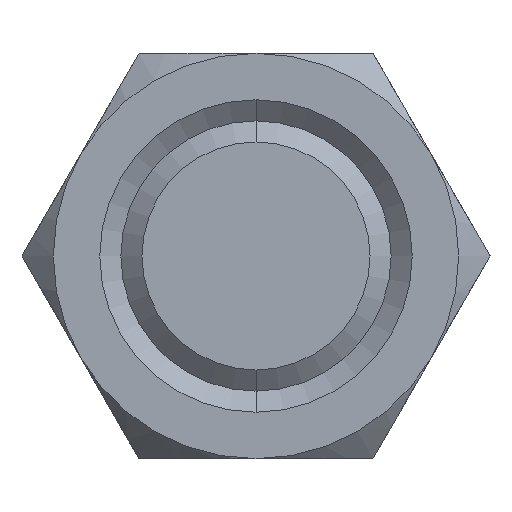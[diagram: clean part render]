
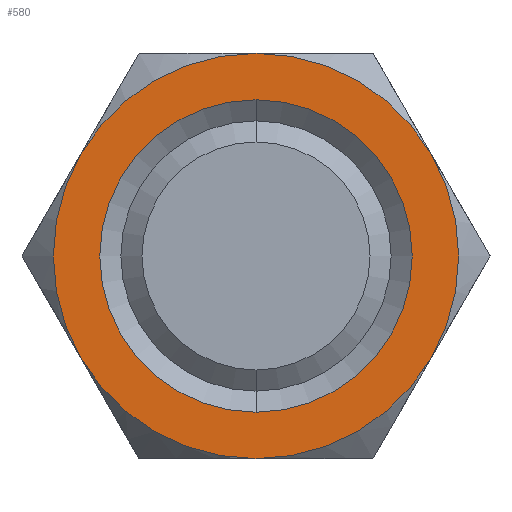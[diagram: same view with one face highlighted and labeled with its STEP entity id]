
A CAD part, front view. The second image highlights one B-rep face of the part: STEP entity #580.
In plain terms, the highlighted planar face has unit normal (0, -1, 0).
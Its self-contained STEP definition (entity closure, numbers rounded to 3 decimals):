
#525 = EDGE_LOOP ( 'NONE', ( #581, #585, #588, #591, #566, #569 ) ) ;
#526 = VERTEX_POINT ( 'NONE', #1261 ) ;
#528 = EDGE_CURVE ( 'NONE', #526, #529, #1260, .T. ) ;
#529 = VERTEX_POINT ( 'NONE', #1255 ) ;
#566 = ORIENTED_EDGE ( 'NONE', *, *, #567, .T. ) ;
#567 = EDGE_CURVE ( 'NONE', #593, #568, #1323, .T. ) ;
#568 = VERTEX_POINT ( 'NONE', #1318 ) ;
#569 = ORIENTED_EDGE ( 'NONE', *, *, #570, .F. ) ;
#570 = EDGE_CURVE ( 'NONE', #584, #568, #1317, .T. ) ;
#571 = EDGE_LOOP ( 'NONE', ( #572, #574 ) ) ;
#572 = ORIENTED_EDGE ( 'NONE', *, *, #573, .F. ) ;
#573 = EDGE_CURVE ( 'NONE', #529, #526, #1312, .T. ) ;
#574 = ORIENTED_EDGE ( 'NONE', *, *, #528, .F. ) ;
#580 = ADVANCED_FACE ( 'NONE', ( #1356, #1355 ), #1354, .F. ) ;
#581 = ORIENTED_EDGE ( 'NONE', *, *, #582, .F. ) ;
#582 = EDGE_CURVE ( 'NONE', #583, #584, #1348, .T. ) ;
#583 = VERTEX_POINT ( 'NONE', #1344 ) ;
#584 = VERTEX_POINT ( 'NONE', #1343 ) ;
#585 = ORIENTED_EDGE ( 'NONE', *, *, #586, .F. ) ;
#586 = EDGE_CURVE ( 'NONE', #587, #583, #1342, .T. ) ;
#587 = VERTEX_POINT ( 'NONE', #1400 ) ;
#588 = ORIENTED_EDGE ( 'NONE', *, *, #589, .F. ) ;
#589 = EDGE_CURVE ( 'NONE', #590, #587, #1399, .T. ) ;
#590 = VERTEX_POINT ( 'NONE', #1394 ) ;
#591 = ORIENTED_EDGE ( 'NONE', *, *, #592, .F. ) ;
#592 = EDGE_CURVE ( 'NONE', #593, #590, #1393, .T. ) ;
#593 = VERTEX_POINT ( 'NONE', #1388 ) ;
#1255 = CARTESIAN_POINT ( 'NONE',  ( 0., 0., -9.249 ) ) ;
#1256 = DIRECTION ( 'NONE',  ( 0., 0., -1. ) ) ;
#1257 = DIRECTION ( 'NONE',  ( 0., -1., 0. ) ) ;
#1258 = CARTESIAN_POINT ( 'NONE',  ( 0., 0., 0. ) ) ;
#1259 = AXIS2_PLACEMENT_3D ( 'NONE', #1258, #1257, #1256 ) ;
#1260 = CIRCLE ( 'NONE', #1259, 9.249 ) ;
#1261 = CARTESIAN_POINT ( 'NONE',  ( 0., 0., 9.249 ) ) ;
#1312 = CIRCLE ( 'NONE', #1372, 9.249 ) ;
#1313 = DIRECTION ( 'NONE',  ( 0., 0., 1. ) ) ;
#1314 = DIRECTION ( 'NONE',  ( 0., 1., 0. ) ) ;
#1315 = CARTESIAN_POINT ( 'NONE',  ( 0., 0., 0. ) ) ;
#1316 = AXIS2_PLACEMENT_3D ( 'NONE', #1315, #1314, #1313 ) ;
#1317 = CIRCLE ( 'NONE', #1316, 12. ) ;
#1318 = CARTESIAN_POINT ( 'NONE',  ( 10.392, 0., -6. ) ) ;
#1319 = DIRECTION ( 'NONE',  ( 0., 0., -1. ) ) ;
#1320 = DIRECTION ( 'NONE',  ( 0., -1., 0. ) ) ;
#1321 = CARTESIAN_POINT ( 'NONE',  ( 0., 0., 0. ) ) ;
#1322 = AXIS2_PLACEMENT_3D ( 'NONE', #1321, #1320, #1319 ) ;
#1323 = CIRCLE ( 'NONE', #1322, 12. ) ;
#1339 = DIRECTION ( 'NONE',  ( 0., 1., 0. ) ) ;
#1340 = CARTESIAN_POINT ( 'NONE',  ( 0., 0., 0. ) ) ;
#1341 = AXIS2_PLACEMENT_3D ( 'NONE', #1340, #1339, #1401 ) ;
#1342 = CIRCLE ( 'NONE', #1341, 12. ) ;
#1343 = CARTESIAN_POINT ( 'NONE',  ( 10.392, 0., 6. ) ) ;
#1344 = CARTESIAN_POINT ( 'NONE',  ( 0., 0., 12. ) ) ;
#1345 = DIRECTION ( 'NONE',  ( 0., 0., 1. ) ) ;
#1346 = DIRECTION ( 'NONE',  ( 0., 1., 0. ) ) ;
#1347 = AXIS2_PLACEMENT_3D ( 'NONE', #1352, #1346, #1345 ) ;
#1348 = CIRCLE ( 'NONE', #1347, 12. ) ;
#1349 = DIRECTION ( 'NONE',  ( 0., 0., 1. ) ) ;
#1350 = DIRECTION ( 'NONE',  ( 0., 1., 0. ) ) ;
#1351 = CARTESIAN_POINT ( 'NONE',  ( 13.856, 0., 0. ) ) ;
#1352 = CARTESIAN_POINT ( 'NONE',  ( 0., 0., 0. ) ) ;
#1353 = AXIS2_PLACEMENT_3D ( 'NONE', #1351, #1350, #1349 ) ;
#1354 = PLANE ( 'NONE',  #1353 ) ;
#1355 = FACE_BOUND ( 'NONE', #571, .T. ) ;
#1356 = FACE_OUTER_BOUND ( 'NONE', #525, .T. ) ;
#1369 = DIRECTION ( 'NONE',  ( 0., 0., -1. ) ) ;
#1370 = DIRECTION ( 'NONE',  ( 0., -1., 0. ) ) ;
#1371 = CARTESIAN_POINT ( 'NONE',  ( 0., 0., 0. ) ) ;
#1372 = AXIS2_PLACEMENT_3D ( 'NONE', #1371, #1370, #1369 ) ;
#1388 = CARTESIAN_POINT ( 'NONE',  ( 0., 0., -12. ) ) ;
#1389 = DIRECTION ( 'NONE',  ( 0., 0., 1. ) ) ;
#1390 = DIRECTION ( 'NONE',  ( 0., 1., 0. ) ) ;
#1391 = CARTESIAN_POINT ( 'NONE',  ( 0., 0., 0. ) ) ;
#1392 = AXIS2_PLACEMENT_3D ( 'NONE', #1391, #1390, #1389 ) ;
#1393 = CIRCLE ( 'NONE', #1392, 12. ) ;
#1394 = CARTESIAN_POINT ( 'NONE',  ( -10.392, 0., -6. ) ) ;
#1395 = DIRECTION ( 'NONE',  ( 0., 0., 1. ) ) ;
#1396 = DIRECTION ( 'NONE',  ( 0., 1., 0. ) ) ;
#1397 = CARTESIAN_POINT ( 'NONE',  ( 0., 0., 0. ) ) ;
#1398 = AXIS2_PLACEMENT_3D ( 'NONE', #1397, #1396, #1395 ) ;
#1399 = CIRCLE ( 'NONE', #1398, 12. ) ;
#1400 = CARTESIAN_POINT ( 'NONE',  ( -10.392, 0., 6. ) ) ;
#1401 = DIRECTION ( 'NONE',  ( 0., 0., 1. ) ) ;
